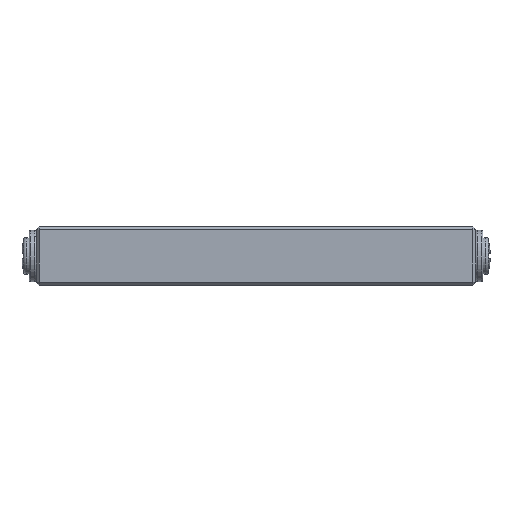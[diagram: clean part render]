
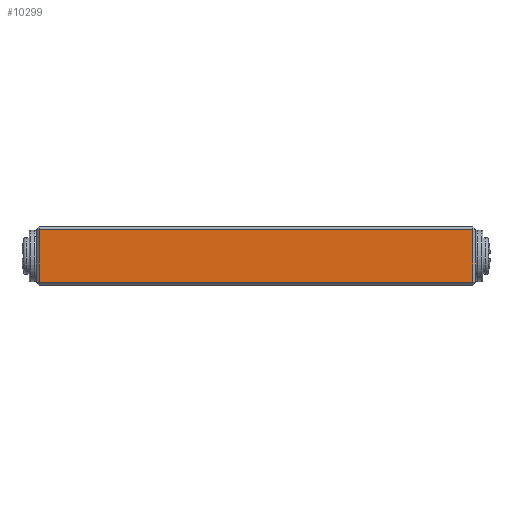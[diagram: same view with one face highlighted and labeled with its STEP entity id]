
A CAD part, top view. The second image highlights one B-rep face of the part: STEP entity #10299.
In plain terms, the highlighted planar face has unit normal (0, 0, 1) as drawn and (0, 0, -1) by its records, which use the part's own axes.
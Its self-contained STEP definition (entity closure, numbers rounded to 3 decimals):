
#1240 = CARTESIAN_POINT ( 'NONE',  ( -14.8, -2., 0. ) ) ;
#1598 = ORIENTED_EDGE ( 'NONE', *, *, #20617, .T. ) ;
#1755 = AXIS2_PLACEMENT_3D ( 'NONE', #3819, #10628, #12085 ) ;
#2893 = CARTESIAN_POINT ( 'NONE',  ( 14.8, 1.8, 0. ) ) ;
#3097 = VECTOR ( 'NONE', #4803, 1000. ) ;
#3697 = PLANE ( 'NONE',  #1755 ) ;
#3819 = CARTESIAN_POINT ( 'NONE',  ( -15., -2., 0. ) ) ;
#4171 = CARTESIAN_POINT ( 'NONE',  ( -14.8, -1.8, 0. ) ) ;
#4803 = DIRECTION ( 'NONE',  ( 0., 1., 0. ) ) ;
#4858 = DIRECTION ( 'NONE',  ( 0., -1., 0. ) ) ;
#5253 = CARTESIAN_POINT ( 'NONE',  ( -14.8, 1.8, 0. ) ) ;
#5471 = EDGE_CURVE ( 'NONE', #19637, #12889, #13177, .T. ) ;
#6223 = LINE ( 'NONE', #11353, #18249 ) ;
#10202 = LINE ( 'NONE', #18696, #14291 ) ;
#10291 = FACE_OUTER_BOUND ( 'NONE', #14045, .T. ) ;
#10299 = ADVANCED_FACE ( 'NONE', ( #10291 ), #3697, .T. ) ;
#10628 = DIRECTION ( 'NONE',  ( 0., 0., -1. ) ) ;
#10640 = ORIENTED_EDGE ( 'NONE', *, *, #5471, .T. ) ;
#11353 = CARTESIAN_POINT ( 'NONE',  ( -15., 1.8, 0. ) ) ;
#12085 = DIRECTION ( 'NONE',  ( 0., 1., 0. ) ) ;
#12696 = DIRECTION ( 'NONE',  ( 1., 0., 0. ) ) ;
#12889 = VERTEX_POINT ( 'NONE', #5253 ) ;
#13097 = LINE ( 'NONE', #14558, #17734 ) ;
#13115 = ORIENTED_EDGE ( 'NONE', *, *, #17180, .T. ) ;
#13177 = LINE ( 'NONE', #1240, #3097 ) ;
#14045 = EDGE_LOOP ( 'NONE', ( #14551, #13115, #1598, #10640 ) ) ;
#14291 = VECTOR ( 'NONE', #4858, 1000. ) ;
#14551 = ORIENTED_EDGE ( 'NONE', *, *, #15328, .T. ) ;
#14558 = CARTESIAN_POINT ( 'NONE',  ( -15., -1.8, 0. ) ) ;
#15328 = EDGE_CURVE ( 'NONE', #12889, #15847, #6223, .T. ) ;
#15847 = VERTEX_POINT ( 'NONE', #2893 ) ;
#16360 = DIRECTION ( 'NONE',  ( -1., 0., 0. ) ) ;
#17180 = EDGE_CURVE ( 'NONE', #15847, #18123, #10202, .T. ) ;
#17734 = VECTOR ( 'NONE', #16360, 1000. ) ;
#17938 = CARTESIAN_POINT ( 'NONE',  ( 14.8, -1.8, 0. ) ) ;
#18123 = VERTEX_POINT ( 'NONE', #17938 ) ;
#18249 = VECTOR ( 'NONE', #12696, 1000. ) ;
#18696 = CARTESIAN_POINT ( 'NONE',  ( 14.8, -2., 0. ) ) ;
#19637 = VERTEX_POINT ( 'NONE', #4171 ) ;
#20617 = EDGE_CURVE ( 'NONE', #18123, #19637, #13097, .T. ) ;
